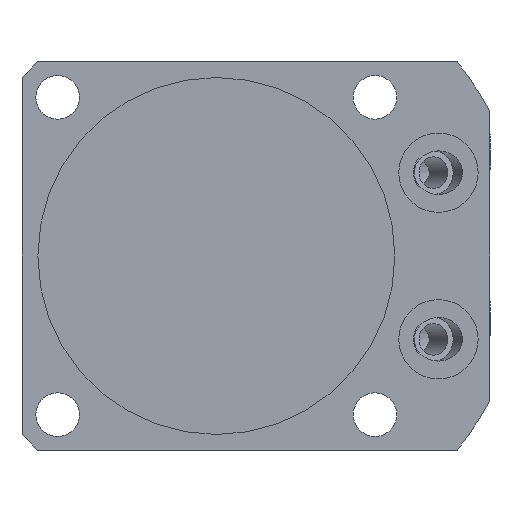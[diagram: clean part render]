
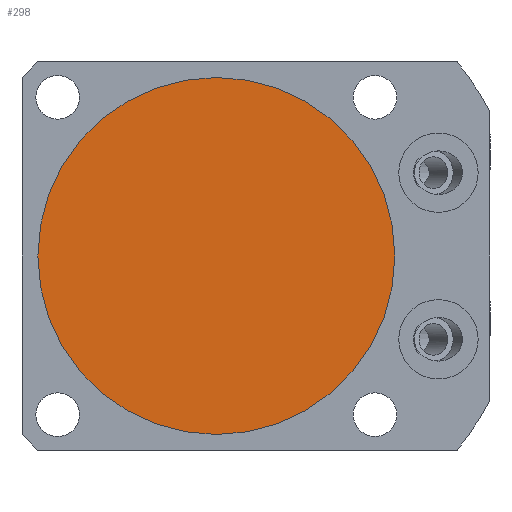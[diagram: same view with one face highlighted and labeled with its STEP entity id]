
A CAD part, front view. The second image highlights one B-rep face of the part: STEP entity #298.
In plain terms, the highlighted planar face has unit normal (0, -1, 0).
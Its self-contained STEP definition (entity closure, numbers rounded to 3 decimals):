
#298 = ADVANCED_FACE( '', ( #464 ), #465, .F. );
#464 = FACE_OUTER_BOUND( '', #809, .T. );
#465 = PLANE( '', #810 );
#809 = EDGE_LOOP( '', ( #1210 ) );
#810 = AXIS2_PLACEMENT_3D( '', #1211, #1212, #1213 );
#1210 = ORIENTED_EDGE( '', *, *, #2063, .T. );
#1211 = CARTESIAN_POINT( '', ( 0., -63., 22.5 ) );
#1212 = DIRECTION( '', ( 0., 1., 0. ) );
#1213 = DIRECTION( '', ( 0., 0., -1. ) );
#2063 = EDGE_CURVE( '', #2380, #2380, #2381, .T. );
#2380 = VERTEX_POINT( '', #2863 );
#2381 = CIRCLE( '', #2864, 22.5 );
#2863 = CARTESIAN_POINT( '', ( 0., -63., 22.5 ) );
#2864 = AXIS2_PLACEMENT_3D( '', #3801, #3802, #3803 );
#3801 = CARTESIAN_POINT( '', ( 0., -63., 0. ) );
#3802 = DIRECTION( '', ( 0., -1., 0. ) );
#3803 = DIRECTION( '', ( 0., 0., 1. ) );
